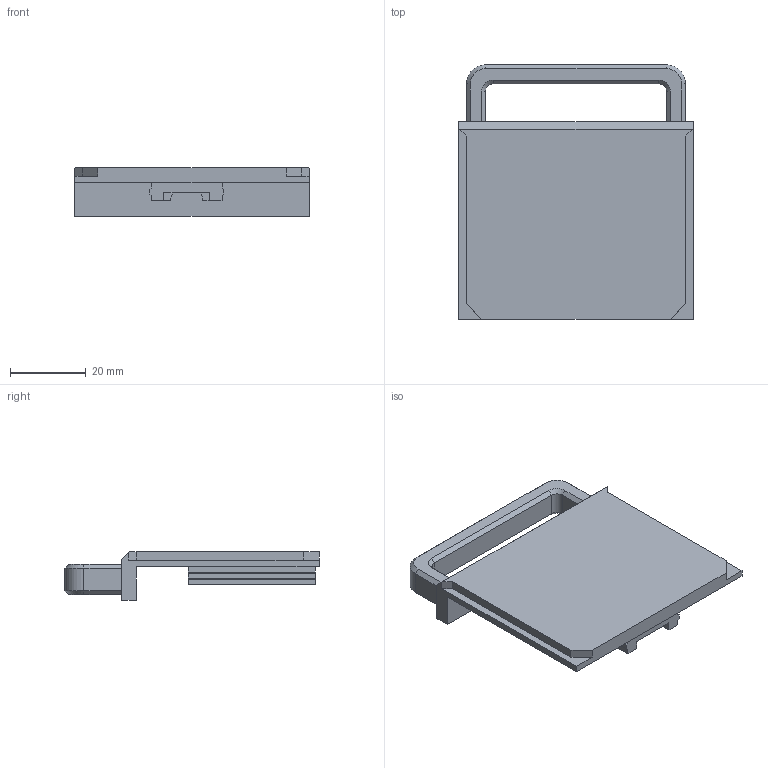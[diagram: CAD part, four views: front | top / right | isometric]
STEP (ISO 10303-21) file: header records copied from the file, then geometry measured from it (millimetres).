
FILE_DESCRIPTION(/* description */ ('STEP AP242','CAx-IF Rec.Pracs.---Representation and Presentation of Product Manufacturing Information (PMI)---4.0---2014-10-13','CAx-IF Rec.Pracs.---3D Tessellated Geometry---0.4---2014-09-14','2;1'),/* implementation_level */ '2;1');
FILE_NAME(/* name */ '687e6b8bf344454910d48022',/* time_stamp */ '2025-07-21T16:32:12Z',/* author */ (''),/* organization */ (''),/* preprocessor_version */ 'ST-DEVELOPER v20',/* originating_system */ 'ONSHAPE BY PTC INC, 1.201',/* authorisation */ ' ');
FILE_SCHEMA (('AP242_MANAGED_MODEL_BASED_3D_ENGINEERING_MIM_LF { 1 0 10303 442 1 1 4 }'));
Length unit declared in the file: metre
Products named in the file (1): Pi 4 Eject 2
Bounding box: 61.7 x 67 x 12.85 mm (x, y, z)
Volume: 18374 mm3; surface area: 10918.1 mm2
Topology: 1 solids, 1 shells, 350 faces, 982 edges, 649 vertices
Faces by surface type: plane 159, cylinder 145, bspline 38, cone 8
Entity records: 11487 total; most frequent: CARTESIAN_POINT 2400, ORIENTED_EDGE 1964, DIRECTION 1831, EDGE_CURVE 982, VERTEX_POINT 649, AXIS2_PLACEMENT_3D 612, LINE 607, VECTOR 607
